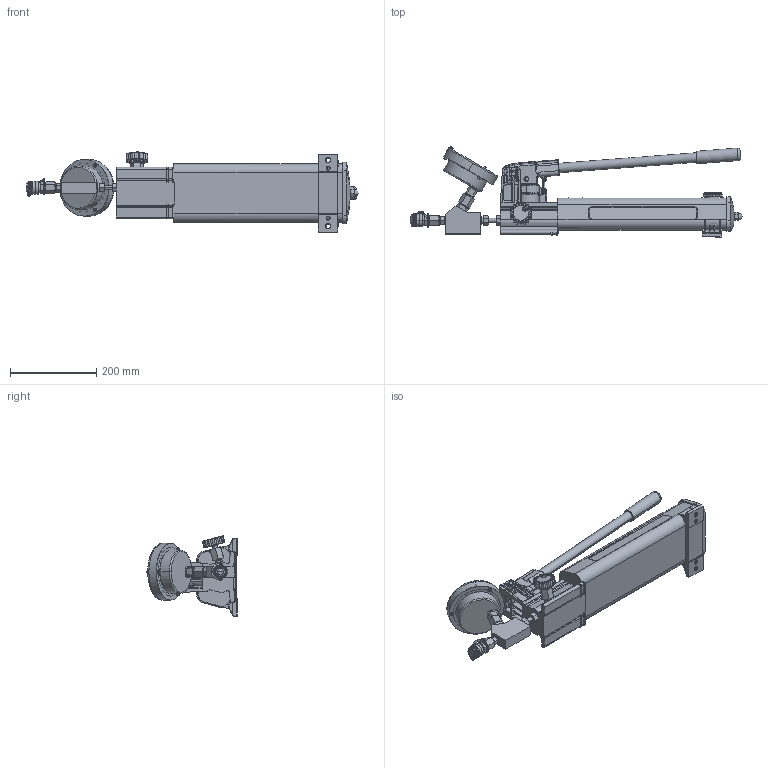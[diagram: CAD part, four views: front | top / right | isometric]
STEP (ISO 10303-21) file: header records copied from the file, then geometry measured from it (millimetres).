
FILE_DESCRIPTION((''),'2;1');
FILE_NAME('HPT1500','2021-02-24T15:22:29',('mike.ward'),(''),'CREO PARAMETRIC BY PTC INC, 2018400','CREO PARAMETRIC BY PTC INC, 2018400','');
FILE_SCHEMA(('CONFIG_CONTROL_DESIGN'));
Products named in the file (1): HPT1500
Bounding box: 771.35 x 209.75 x 186.44 mm (x, y, z)
Volume: 2374061.1 mm3; surface area: 784887.6 mm2
Topology: 7 solids, 8 shells, 2837 faces, 7125 edges, 4373 vertices
Faces by surface type: cylinder 1059, plane 974, cone 269, torus 244, bspline 198, sphere 93
Entity records: 116612 total; most frequent: CARTESIAN_POINT 49617, ORIENTED_EDGE 14178, DIRECTION 13989, EDGE_CURVE 7089, AXIS2_PLACEMENT_3D 5373, VERTEX_POINT 4373, VECTOR 3243, LINE 3243
